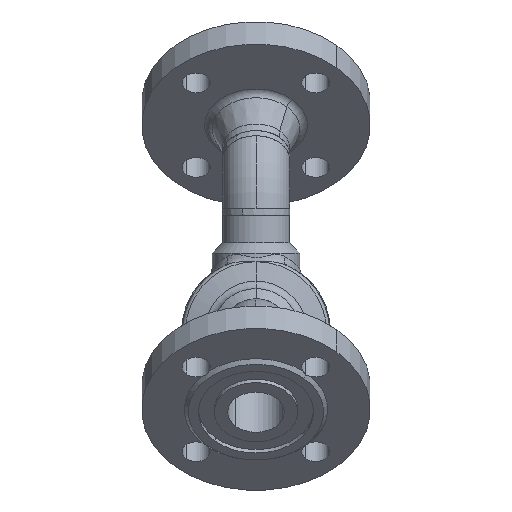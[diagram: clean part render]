
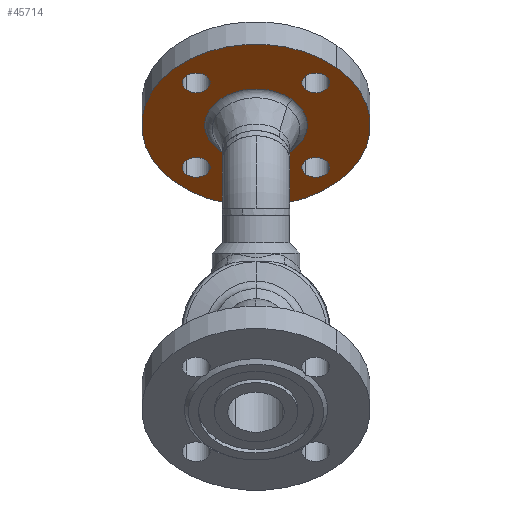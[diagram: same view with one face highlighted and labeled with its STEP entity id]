
A CAD part, front view. The second image highlights one B-rep face of the part: STEP entity #45714.
In plain terms, the highlighted planar face has unit normal (0, -0.707, -0.707) as drawn and (0, 1, 0) by its records, which use the part's own axes.
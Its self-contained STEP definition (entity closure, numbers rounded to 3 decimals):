
#33124 = ORIENTED_EDGE ( 'NONE', *, *, #5023, .T. ) ;
#448 = VERTEX_POINT ( 'NONE', #24386 ) ;
#17916 = EDGE_CURVE ( 'NONE', #25670, #19194, #6022, .T. ) ;
#17931 = CARTESIAN_POINT ( 'NONE',  ( 25.748, 18., 0. ) ) ;
#34509 = EDGE_LOOP ( 'NONE', ( #33124, #31736 ) ) ;
#18601 = VERTEX_POINT ( 'NONE', #17931 ) ;
#35155 = ORIENTED_EDGE ( 'NONE', *, *, #9747, .F. ) ;
#19194 = VERTEX_POINT ( 'NONE', #19416 ) ;
#2904 = CIRCLE ( 'NONE', #2905, 7. ) ;
#2905 = AXIS2_PLACEMENT_3D ( 'NONE', #2906, #2907, #2908 ) ;
#2906 = CARTESIAN_POINT ( 'NONE',  ( 0., 18., -42.5 ) ) ;
#2907 = DIRECTION ( 'NONE',  ( 0., 1., 0. ) ) ;
#2908 = DIRECTION ( 'NONE',  ( 0., 0., 1. ) ) ;
#19365 = ORIENTED_EDGE ( 'NONE', *, *, #39979, .F. ) ;
#19416 = CARTESIAN_POINT ( 'NONE',  ( -7., 18., -42.5 ) ) ;
#35850 = VERTEX_POINT ( 'NONE', #5360 ) ;
#19872 = VERTEX_POINT ( 'NONE', #15869 ) ;
#36289 = CIRCLE ( 'NONE', #36290, 7. ) ;
#36290 = AXIS2_PLACEMENT_3D ( 'NONE', #36291, #36292, #36293 ) ;
#36291 = CARTESIAN_POINT ( 'NONE',  ( 42.5, 18., 0. ) ) ;
#36292 = DIRECTION ( 'NONE',  ( 0., 1., 0. ) ) ;
#36293 = DIRECTION ( 'NONE',  ( -1., 0., 0. ) ) ;
#36550 = ORIENTED_EDGE ( 'NONE', *, *, #46762, .F. ) ;
#36941 = FACE_BOUND ( 'NONE', #45067, .T. ) ;
#36942 = FACE_BOUND ( 'NONE', #40625, .T. ) ;
#36943 = FACE_BOUND ( 'NONE', #23624, .T. ) ;
#36944 = FACE_BOUND ( 'NONE', #20617, .T. ) ;
#36945 = FACE_BOUND ( 'NONE', #37945, .T. ) ;
#36946 = FACE_OUTER_BOUND ( 'NONE', #34509, .T. ) ;
#36947 = PLANE ( 'NONE',  #36948 ) ;
#36948 = AXIS2_PLACEMENT_3D ( 'NONE', #36949, #36983, #36984 ) ;
#36949 = CARTESIAN_POINT ( 'NONE',  ( 57.5, 18., 0. ) ) ;
#36983 = DIRECTION ( 'NONE',  ( 0., -1., 0. ) ) ;
#36984 = DIRECTION ( 'NONE',  ( 1., 0., 0. ) ) ;
#20617 = EDGE_LOOP ( 'NONE', ( #19365, #38586 ) ) ;
#4428 = VERTEX_POINT ( 'NONE', #28655 ) ;
#21057 = ORIENTED_EDGE ( 'NONE', *, *, #32330, .F. ) ;
#5023 = EDGE_CURVE ( 'NONE', #4428, #19872, #42328, .T. ) ;
#5075 = VERTEX_POINT ( 'NONE', #42542 ) ;
#37936 = CIRCLE ( 'NONE', #37937, 7. ) ;
#37937 = AXIS2_PLACEMENT_3D ( 'NONE', #37938, #37939, #37940 ) ;
#37938 = CARTESIAN_POINT ( 'NONE',  ( 0., 18., 42.5 ) ) ;
#37939 = DIRECTION ( 'NONE',  ( 0., 1., 0. ) ) ;
#37940 = DIRECTION ( 'NONE',  ( 0., 0., -1. ) ) ;
#37945 = EDGE_LOOP ( 'NONE', ( #36550, #35155 ) ) ;
#5360 = CARTESIAN_POINT ( 'NONE',  ( 7., 18., 42.5 ) ) ;
#38183 = CARTESIAN_POINT ( 'NONE',  ( -25.748, 18., 0. ) ) ;
#38230 = CIRCLE ( 'NONE', #38231, 25.748 ) ;
#38231 = AXIS2_PLACEMENT_3D ( 'NONE', #38232, #38233, #38234 ) ;
#38232 = CARTESIAN_POINT ( 'NONE',  ( 0., 18., 0. ) ) ;
#38233 = DIRECTION ( 'NONE',  ( 0., 1., 0. ) ) ;
#38234 = DIRECTION ( 'NONE',  ( -1., 0., 0. ) ) ;
#38283 = CARTESIAN_POINT ( 'NONE',  ( -49.5, 18., 0. ) ) ;
#22003 = EDGE_CURVE ( 'NONE', #31735, #35850, #37936, .T. ) ;
#22104 = VERTEX_POINT ( 'NONE', #38183 ) ;
#38586 = ORIENTED_EDGE ( 'NONE', *, *, #45118, .F. ) ;
#6022 = CIRCLE ( 'NONE', #6023, 7. ) ;
#6023 = AXIS2_PLACEMENT_3D ( 'NONE', #6024, #6025, #6026 ) ;
#6024 = CARTESIAN_POINT ( 'NONE',  ( 0., 18., -42.5 ) ) ;
#6025 = DIRECTION ( 'NONE',  ( 0., 1., 0. ) ) ;
#6026 = DIRECTION ( 'NONE',  ( 0., 0., 1. ) ) ;
#22678 = ORIENTED_EDGE ( 'NONE', *, *, #22003, .F. ) ;
#39519 = CIRCLE ( 'NONE', #39520, 7. ) ;
#39520 = AXIS2_PLACEMENT_3D ( 'NONE', #39521, #39522, #39523 ) ;
#39521 = CARTESIAN_POINT ( 'NONE',  ( -42.5, 18., 0. ) ) ;
#39522 = DIRECTION ( 'NONE',  ( 0., 1., 0. ) ) ;
#39523 = DIRECTION ( 'NONE',  ( 1., 0., 0. ) ) ;
#39979 = EDGE_CURVE ( 'NONE', #44521, #5075, #42642, .T. ) ;
#23624 = EDGE_LOOP ( 'NONE', ( #22678, #21057 ) ) ;
#24081 = ORIENTED_EDGE ( 'NONE', *, *, #12379, .F. ) ;
#24225 = CARTESIAN_POINT ( 'NONE',  ( -7., 18., 42.5 ) ) ;
#40625 = EDGE_LOOP ( 'NONE', ( #26475, #24081 ) ) ;
#24317 = CARTESIAN_POINT ( 'NONE',  ( 35.5, 18., 0. ) ) ;
#24323 = CIRCLE ( 'NONE', #24324, 25.748 ) ;
#24324 = AXIS2_PLACEMENT_3D ( 'NONE', #24325, #24326, #24327 ) ;
#24325 = CARTESIAN_POINT ( 'NONE',  ( 0., 18., 0. ) ) ;
#24326 = DIRECTION ( 'NONE',  ( 0., 1., 0. ) ) ;
#24327 = DIRECTION ( 'NONE',  ( -1., 0., 0. ) ) ;
#24386 = CARTESIAN_POINT ( 'NONE',  ( -35.5, 18., 0. ) ) ;
#41278 = ORIENTED_EDGE ( 'NONE', *, *, #17916, .F. ) ;
#24970 = CIRCLE ( 'NONE', #24971, 7. ) ;
#24971 = AXIS2_PLACEMENT_3D ( 'NONE', #24972, #24973, #24974 ) ;
#24972 = CARTESIAN_POINT ( 'NONE',  ( 0., 18., 42.5 ) ) ;
#24973 = DIRECTION ( 'NONE',  ( 0., 1., 0. ) ) ;
#24974 = DIRECTION ( 'NONE',  ( 0., 0., -1. ) ) ;
#25473 = EDGE_CURVE ( 'NONE', #11980, #448, #27735, .T. ) ;
#25670 = VERTEX_POINT ( 'NONE', #27824 ) ;
#42328 = CIRCLE ( 'NONE', #42329, 57.5 ) ;
#42329 = AXIS2_PLACEMENT_3D ( 'NONE', #42330, #42331, #42332 ) ;
#42330 = CARTESIAN_POINT ( 'NONE',  ( 0., 18., 0. ) ) ;
#42331 = DIRECTION ( 'NONE',  ( 0., 1., 0. ) ) ;
#42332 = DIRECTION ( 'NONE',  ( -1., 0., 0. ) ) ;
#9747 = EDGE_CURVE ( 'NONE', #18601, #22104, #24323, .T. ) ;
#42542 = CARTESIAN_POINT ( 'NONE',  ( 49.5, 18., 0. ) ) ;
#42642 = CIRCLE ( 'NONE', #42676, 7. ) ;
#42675 = EDGE_CURVE ( 'NONE', #19194, #25670, #2904, .T. ) ;
#42676 = AXIS2_PLACEMENT_3D ( 'NONE', #42677, #42678, #42679 ) ;
#42677 = CARTESIAN_POINT ( 'NONE',  ( 42.5, 18., 0. ) ) ;
#42678 = DIRECTION ( 'NONE',  ( 0., 1., 0. ) ) ;
#42679 = DIRECTION ( 'NONE',  ( -1., 0., 0. ) ) ;
#26475 = ORIENTED_EDGE ( 'NONE', *, *, #25473, .F. ) ;
#43673 = ORIENTED_EDGE ( 'NONE', *, *, #42675, .F. ) ;
#27735 = CIRCLE ( 'NONE', #27771, 7. ) ;
#27771 = AXIS2_PLACEMENT_3D ( 'NONE', #27772, #27773, #27774 ) ;
#27772 = CARTESIAN_POINT ( 'NONE',  ( -42.5, 18., 0. ) ) ;
#27773 = DIRECTION ( 'NONE',  ( 0., 1., 0. ) ) ;
#27774 = DIRECTION ( 'NONE',  ( 1., 0., 0. ) ) ;
#27824 = CARTESIAN_POINT ( 'NONE',  ( 7., 18., -42.5 ) ) ;
#44521 = VERTEX_POINT ( 'NONE', #24317 ) ;
#11980 = VERTEX_POINT ( 'NONE', #38283 ) ;
#28655 = CARTESIAN_POINT ( 'NONE',  ( -57.5, 18., 0. ) ) ;
#45067 = EDGE_LOOP ( 'NONE', ( #43673, #41278 ) ) ;
#45118 = EDGE_CURVE ( 'NONE', #5075, #44521, #36289, .T. ) ;
#12379 = EDGE_CURVE ( 'NONE', #448, #11980, #39519, .T. ) ;
#45714 = ADVANCED_FACE ( 'NONE', ( #36941, #36942, #36943, #36944, #36945, #36946 ), #36947, .F. ) ;
#46762 = EDGE_CURVE ( 'NONE', #22104, #18601, #38230, .T. ) ;
#30742 = EDGE_CURVE ( 'NONE', #19872, #4428, #15917, .T. ) ;
#31735 = VERTEX_POINT ( 'NONE', #24225 ) ;
#31736 = ORIENTED_EDGE ( 'NONE', *, *, #30742, .T. ) ;
#15869 = CARTESIAN_POINT ( 'NONE',  ( 57.5, 18., 0. ) ) ;
#15917 = CIRCLE ( 'NONE', #15918, 57.5 ) ;
#15918 = AXIS2_PLACEMENT_3D ( 'NONE', #15919, #15920, #15921 ) ;
#15919 = CARTESIAN_POINT ( 'NONE',  ( 0., 18., 0. ) ) ;
#15920 = DIRECTION ( 'NONE',  ( 0., 1., 0. ) ) ;
#15921 = DIRECTION ( 'NONE',  ( -1., 0., 0. ) ) ;
#32330 = EDGE_CURVE ( 'NONE', #35850, #31735, #24970, .T. ) ;
